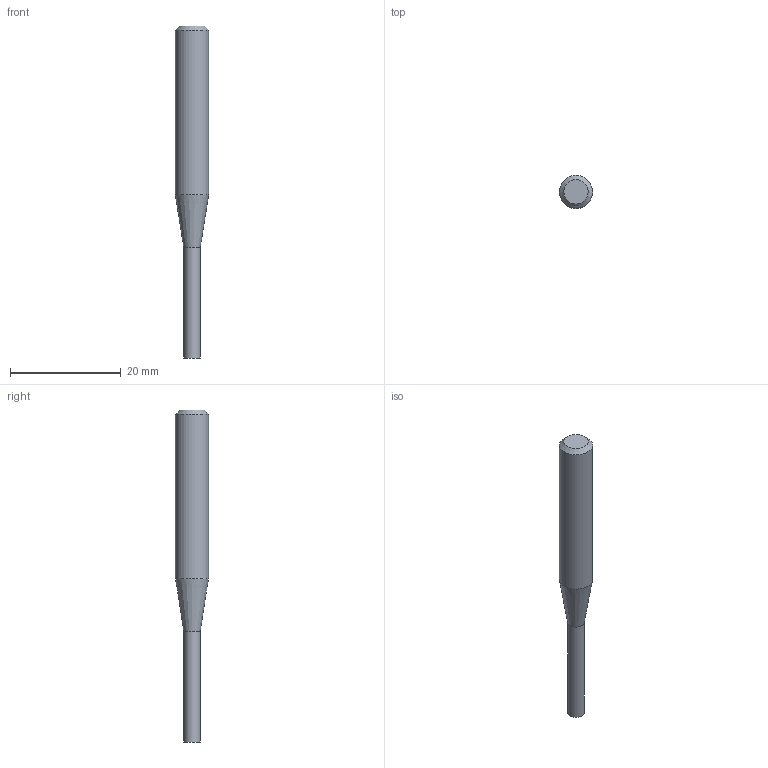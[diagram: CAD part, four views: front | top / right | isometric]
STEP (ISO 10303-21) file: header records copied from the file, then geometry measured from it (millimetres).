
FILE_DESCRIPTION((''),'2;1');
FILE_NAME('C:\Users\nsx150\Desktop\RSE230_20210427\01-00644-03004 RSE230 D3X20.step','2021-05-07T14:53:54',(''),(''),'STEP Write','Mastercam 2021 ... CNC Software, Inc.','');
FILE_SCHEMA(('AUTOMOTIVE_DESIGN'));
Length unit declared in the file: millimetre
Products named in the file (1): None
Bounding box: 6 x 6 x 60 mm (x, y, z)
Volume: 1155.3 mm3; surface area: 939.3 mm2
Topology: 2 solids, 2 shells, 8 faces, 10 edges, 6 vertices
Faces by surface type: plane 4, cylinder 2, cone 2
Full cylindrical faces by diameter (mm): 3 x1, 6 x1
Entity records: 190 total; most frequent: DIRECTION 32, CARTESIAN_POINT 22, AXIS2_PLACEMENT_3D 16, ORIENTED_EDGE 12, EDGE_LOOP 12, STYLED_ITEM 11, ADVANCED_FACE 8, VERTEX_POINT 6
